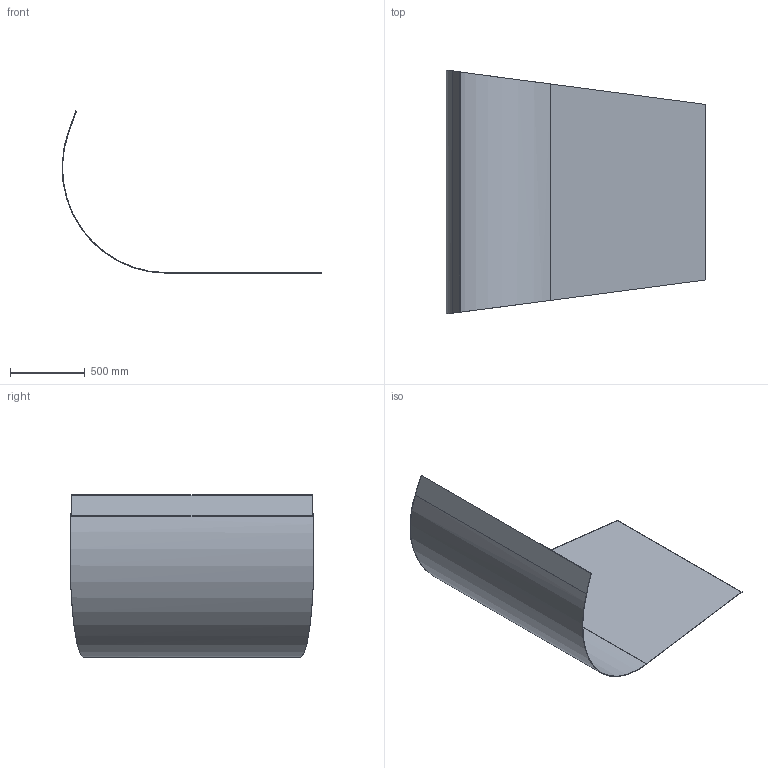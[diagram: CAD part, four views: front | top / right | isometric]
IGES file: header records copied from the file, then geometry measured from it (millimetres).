
Start section: Comment
Global section: file name: 90561-268.igs; native system:  By UGS Corp.; preprocessor: XPlus GENERIC/IGES 3.0; author: Author; organization: Title; date: 20080227.153211; units: inch
Bounding box: 1738.81 x 1632.57 x 1085.73 mm (x, y, z)
Surface area: 7477593.1 mm2 (no closed solid volume)
Topology: 0 solids, 0 shells, 10 faces, 48 edges, 48 vertices
Faces by surface type: bspline 10
